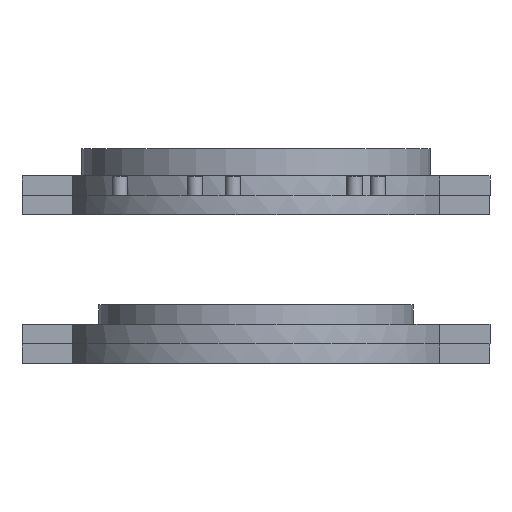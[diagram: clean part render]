
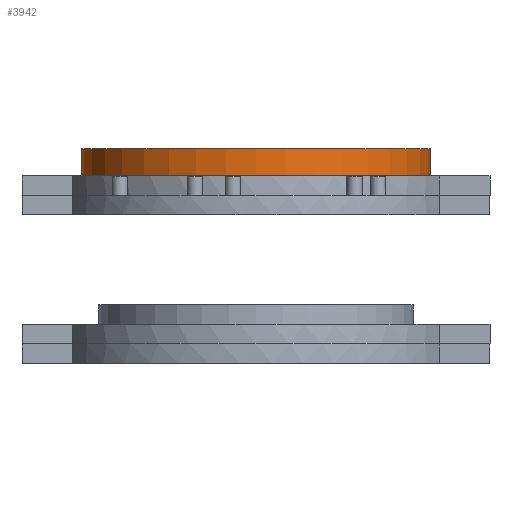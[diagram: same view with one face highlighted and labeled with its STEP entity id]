
A CAD part, left-side view. The second image highlights one B-rep face of the part: STEP entity #3942.
In plain terms, the highlighted cylindrical face has radius 44.721 mm (diameter 89.443 mm), a full revolution.
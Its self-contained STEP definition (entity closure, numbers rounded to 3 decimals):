
#263=FACE_OUTER_BOUND('',#512,.T.);
#512=EDGE_LOOP('',(#2958,#2959,#2960,#2961));
#791=LINE('',#6557,#1061);
#1061=VECTOR('',#5205,44.721);
#1379=CIRCLE('',#4332,44.721);
#1381=CIRCLE('',#4335,44.721);
#1727=VERTEX_POINT('',#6551);
#1729=VERTEX_POINT('',#6556);
#2188=EDGE_CURVE('',#1727,#1727,#1379,.T.);
#2190=EDGE_CURVE('',#1727,#1729,#791,.T.);
#2191=EDGE_CURVE('',#1729,#1729,#1381,.T.);
#2958=ORIENTED_EDGE('',*,*,#2188,.F.);
#2959=ORIENTED_EDGE('',*,*,#2190,.T.);
#2960=ORIENTED_EDGE('',*,*,#2191,.F.);
#2961=ORIENTED_EDGE('',*,*,#2190,.F.);
#3801=CYLINDRICAL_SURFACE('',#4334,44.721);
#3942=ADVANCED_FACE('',(#263),#3801,.T.);
#4332=AXIS2_PLACEMENT_3D('',#6552,#5199,#5200);
#4334=AXIS2_PLACEMENT_3D('',#6555,#5203,#5204);
#4335=AXIS2_PLACEMENT_3D('',#6558,#5206,#5207);
#5199=DIRECTION('center_axis',(0.,0.,1.));
#5200=DIRECTION('ref_axis',(-1.,0.,0.));
#5203=DIRECTION('center_axis',(0.,0.,1.));
#5204=DIRECTION('ref_axis',(-1.,0.,0.));
#5205=DIRECTION('',(0.,0.,-1.));
#5206=DIRECTION('center_axis',(0.,0.,-1.));
#5207=DIRECTION('ref_axis',(-1.,0.,0.));
#6551=CARTESIAN_POINT('',(-65.279,0.,17.));
#6552=CARTESIAN_POINT('Origin',(-110.,0.,17.));
#6555=CARTESIAN_POINT('Origin',(-110.,0.,10.));
#6556=CARTESIAN_POINT('',(-65.279,0.,10.));
#6557=CARTESIAN_POINT('',(-65.279,0.,10.));
#6558=CARTESIAN_POINT('Origin',(-110.,0.,10.));
